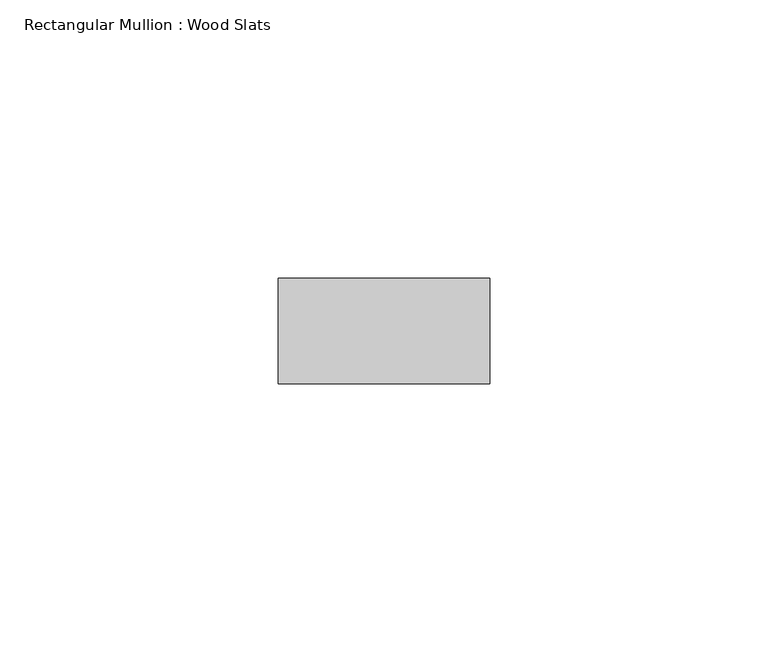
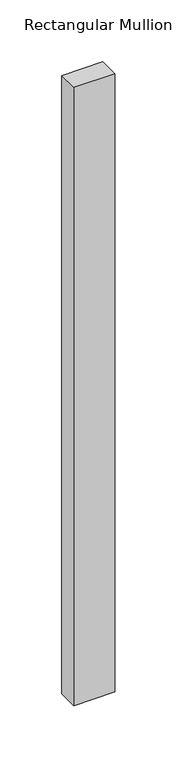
"""IFC4 building model written with IfcOpenShell, lengths in millimetres: member geometry, Rectangular Mullion : Wood Slats."""

from ifc_helpers import new_model, si_unit, frame, origin, place, context, project, spatial, polyline, outline, extrude, source, transform, mapped, element, save


def rectangular_mullion_wood_slats_8d49de8e(model_context):
    return source(origin(), model_context, "Body", "SweptSolid", [
        extrude(outline(polyline([(0.0, 9.525), (0.0, -9.525), (-38.1, -9.525), (-38.1, 9.525), (0.0, 9.525)])), frame((0.0, 0.0, -609.6), z_axis=(0.0, 0.0, 1.0), x_axis=(1.0, 0.0, 0.0)), (0.0, 0.0, 1.0), 609.6),
    ])


if __name__ == "__main__":
    model = new_model("IFC4")
    model_context = context("Model", 3, world=origin())
    ifc_project = project(units=[si_unit("LENGTHUNIT", "METRE", prefix="MILLI")], contexts=[model_context])
    site = spatial("IfcSite", under=ifc_project)
    building = spatial("IfcBuilding", under=site)
    placement = place(None, origin())
    rectangular_mullion_wood_slats_shape = rectangular_mullion_wood_slats_8d49de8e(model_context)
    element("IfcMember", 1, ObjectType="Rectangular Mullion : Wood Slats", at=placement, inside=building, context=model_context, shape_type="MappedRepresentation", body=[
        mapped(rectangular_mullion_wood_slats_shape, transform((0.0, 0.0, 0.0), x_axis=(1.0, 0.0, 0.0), y_axis=(0.0, 1.0, 0.0), z_axis=(0.0, 0.0, 1.0))),
    ])
    save(model, "model.ifc")
